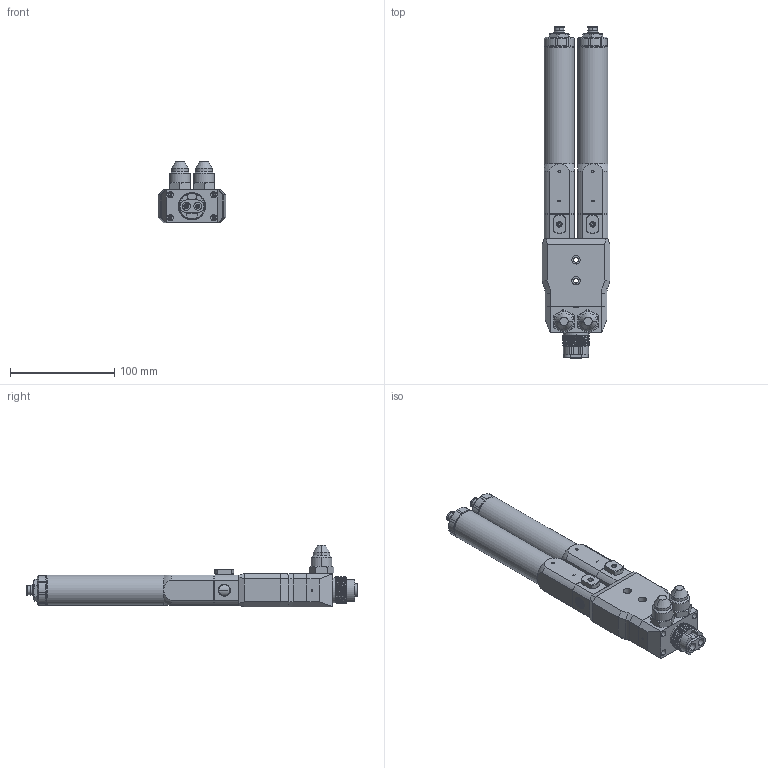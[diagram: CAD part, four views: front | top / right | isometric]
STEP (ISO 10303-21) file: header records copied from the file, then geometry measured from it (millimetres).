
FILE_DESCRIPTION (( 'STEP AP214' ), '1' );
FILE_NAME ('PDP-500-150FA.STEP', '2024-10-11T12:12:08', ( '' ), ( '' ), 'SwSTEP 2.0', 'SolidWorks 2024', '' );
FILE_SCHEMA (( 'AUTOMOTIVE_DESIGN' ));
Length unit declared in the file: millimetre
Products named in the file (1): PDP-500-150FA
Bounding box: 65 x 318 x 59.3 mm (x, y, z)
Volume: 467334.2 mm3; surface area: 105780.9 mm2
Topology: 12 solids, 12 shells, 1155 faces, 2850 edges, 1806 vertices
Faces by surface type: plane 441, cylinder 394, cone 267, bspline 33, torus 12, sphere 8
Full cylindrical faces by diameter (mm): 29 x2
Entity records: 68706 total; most frequent: CARTESIAN_POINT 42057, ORIENTED_EDGE 5648, DIRECTION 5310, EDGE_CURVE 2824, AXIS2_PLACEMENT_3D 2096, VERTEX_POINT 1806, EDGE_LOOP 1304, FACE_OUTER_BOUND 1157
